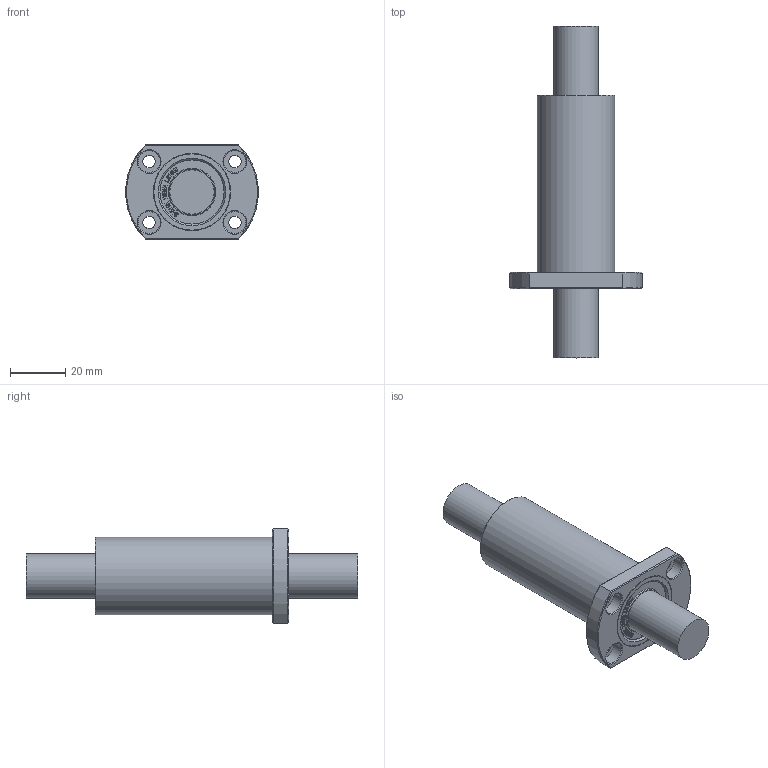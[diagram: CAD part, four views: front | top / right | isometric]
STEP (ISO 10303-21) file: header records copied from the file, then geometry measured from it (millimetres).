
FILE_DESCRIPTION(/* description */ (''),/* implementation_level */ '2;1');
FILE_NAME(/* name */ 'W:\(01) 2024년 홈페이지 CAD파일 최신화\LMH_L\IPT\LMH16LUU.stp',/* time_stamp */ '2025-01-23T10:14:50+09:00',/* author */ ('서우현'),/* organization */ (''),/* preprocessor_version */ 'ST-DEVELOPER v17.2',/* originating_system */ 'Autodesk Inventor 2019',/* authorisation */ '');
FILE_SCHEMA (('AUTOMOTIVE_DESIGN { 1 0 10303 214 3 1 1 }'));
Length unit declared in the file: millimetre
Products named in the file (1): LM5
Bounding box: 47.82 x 120 x 34 mm (x, y, z)
Volume: 56976.5 mm3; surface area: 12487.8 mm2
Topology: 1 solids, 1 shells, 854 faces, 2396 edges, 1600 vertices
Faces by surface type: bspline 588, plane 232, cone 16, cylinder 16, torus 2
Full cylindrical faces by diameter (mm): 4.5 x4, 8 x4, 16 x2, 23.2 x2, 28 x2
Entity records: 29030 total; most frequent: CARTESIAN_POINT 10159, ORIENTED_EDGE 4792, EDGE_CURVE 2396, DIRECTION 1828, VERTEX_POINT 1600, B_SPLINE_CURVE_WITH_KNOTS 1176, LINE 1130, VECTOR 1130
